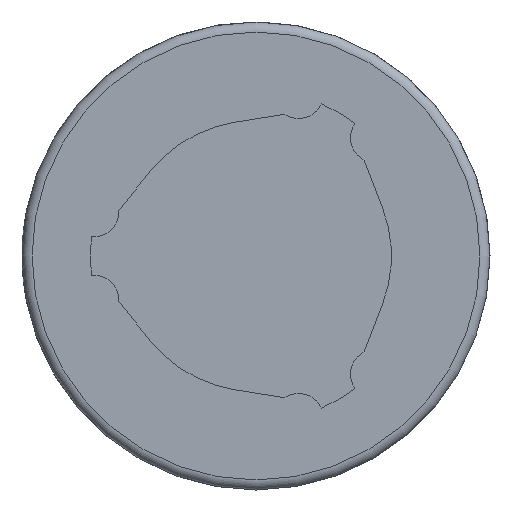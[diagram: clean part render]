
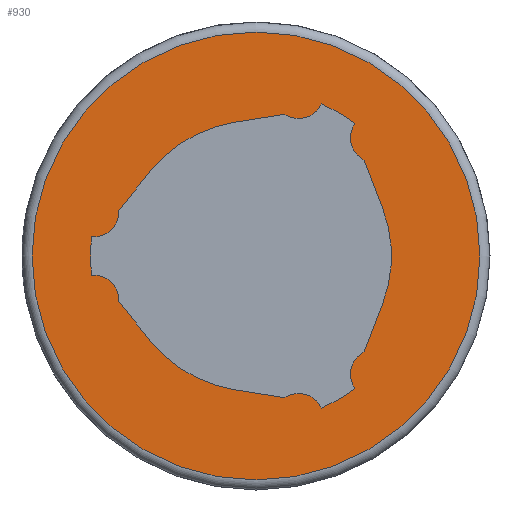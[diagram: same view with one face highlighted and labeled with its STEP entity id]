
A CAD part, left-side view. The second image highlights one B-rep face of the part: STEP entity #930.
In plain terms, the highlighted planar face has unit normal (-1, 0, 0).
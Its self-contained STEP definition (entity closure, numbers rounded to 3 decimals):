
#71=LINE('',#1439,#141);
#72=LINE('',#1448,#142);
#73=LINE('',#1452,#143);
#74=LINE('',#1460,#144);
#75=LINE('',#1464,#145);
#76=LINE('',#1472,#146);
#141=VECTOR('',#1135,1000.);
#142=VECTOR('',#1142,1000.);
#143=VECTOR('',#1145,1000.);
#144=VECTOR('',#1152,1000.);
#145=VECTOR('',#1155,1000.);
#146=VECTOR('',#1162,1000.);
#211=ORIENTED_EDGE('',*,*,#483,.F.);
#212=ORIENTED_EDGE('',*,*,#484,.T.);
#213=ORIENTED_EDGE('',*,*,#485,.F.);
#214=ORIENTED_EDGE('',*,*,#486,.T.);
#215=ORIENTED_EDGE('',*,*,#487,.F.);
#216=ORIENTED_EDGE('',*,*,#488,.T.);
#217=ORIENTED_EDGE('',*,*,#489,.T.);
#218=ORIENTED_EDGE('',*,*,#490,.T.);
#219=ORIENTED_EDGE('',*,*,#491,.F.);
#220=ORIENTED_EDGE('',*,*,#492,.T.);
#221=ORIENTED_EDGE('',*,*,#493,.F.);
#222=ORIENTED_EDGE('',*,*,#494,.T.);
#223=ORIENTED_EDGE('',*,*,#495,.T.);
#224=ORIENTED_EDGE('',*,*,#496,.T.);
#225=ORIENTED_EDGE('',*,*,#497,.F.);
#226=ORIENTED_EDGE('',*,*,#498,.T.);
#227=ORIENTED_EDGE('',*,*,#499,.F.);
#228=ORIENTED_EDGE('',*,*,#500,.T.);
#229=ORIENTED_EDGE('',*,*,#501,.T.);
#483=EDGE_CURVE('',#619,#619,#713,.T.);
#484=EDGE_CURVE('',#620,#621,#71,.T.);
#485=EDGE_CURVE('',#622,#621,#714,.T.);
#486=EDGE_CURVE('',#622,#623,#715,.T.);
#487=EDGE_CURVE('',#624,#623,#716,.T.);
#488=EDGE_CURVE('',#624,#625,#72,.T.);
#489=EDGE_CURVE('',#625,#626,#717,.T.);
#490=EDGE_CURVE('',#626,#627,#73,.T.);
#491=EDGE_CURVE('',#628,#627,#718,.T.);
#492=EDGE_CURVE('',#628,#629,#719,.T.);
#493=EDGE_CURVE('',#630,#629,#720,.T.);
#494=EDGE_CURVE('',#630,#631,#74,.T.);
#495=EDGE_CURVE('',#631,#632,#721,.T.);
#496=EDGE_CURVE('',#632,#633,#75,.T.);
#497=EDGE_CURVE('',#634,#633,#722,.T.);
#498=EDGE_CURVE('',#634,#635,#723,.T.);
#499=EDGE_CURVE('',#636,#635,#724,.T.);
#500=EDGE_CURVE('',#636,#637,#76,.T.);
#501=EDGE_CURVE('',#637,#620,#725,.T.);
#619=VERTEX_POINT('',#1438);
#620=VERTEX_POINT('',#1440);
#621=VERTEX_POINT('',#1441);
#622=VERTEX_POINT('',#1443);
#623=VERTEX_POINT('',#1445);
#624=VERTEX_POINT('',#1447);
#625=VERTEX_POINT('',#1449);
#626=VERTEX_POINT('',#1451);
#627=VERTEX_POINT('',#1453);
#628=VERTEX_POINT('',#1455);
#629=VERTEX_POINT('',#1457);
#630=VERTEX_POINT('',#1459);
#631=VERTEX_POINT('',#1461);
#632=VERTEX_POINT('',#1463);
#633=VERTEX_POINT('',#1465);
#634=VERTEX_POINT('',#1467);
#635=VERTEX_POINT('',#1469);
#636=VERTEX_POINT('',#1471);
#637=VERTEX_POINT('',#1473);
#713=CIRCLE('',#1013,67.);
#714=CIRCLE('',#1014,7.43);
#715=CIRCLE('',#1015,49.5);
#716=CIRCLE('',#1016,7.43);
#717=CIRCLE('',#1017,40.5);
#718=CIRCLE('',#1018,7.43);
#719=CIRCLE('',#1019,49.5);
#720=CIRCLE('',#1020,7.43);
#721=CIRCLE('',#1021,40.5);
#722=CIRCLE('',#1022,7.43);
#723=CIRCLE('',#1023,49.5);
#724=CIRCLE('',#1024,7.43);
#725=CIRCLE('',#1025,40.5);
#772=EDGE_LOOP('',(#211));
#773=EDGE_LOOP('',(#212,#213,#214,#215,#216,#217,#218,#219,#220,#221,#222,
#223,#224,#225,#226,#227,#228,#229));
#840=FACE_BOUND('',#772,.T.);
#841=FACE_BOUND('',#773,.T.);
#908=PLANE('',#1012);
#930=ADVANCED_FACE('',(#840,#841),#908,.F.);
#1012=AXIS2_PLACEMENT_3D('',#1436,#1131,#1132);
#1013=AXIS2_PLACEMENT_3D('',#1437,#1133,#1134);
#1014=AXIS2_PLACEMENT_3D('',#1442,#1136,#1137);
#1015=AXIS2_PLACEMENT_3D('',#1444,#1138,#1139);
#1016=AXIS2_PLACEMENT_3D('',#1446,#1140,#1141);
#1017=AXIS2_PLACEMENT_3D('',#1450,#1143,#1144);
#1018=AXIS2_PLACEMENT_3D('',#1454,#1146,#1147);
#1019=AXIS2_PLACEMENT_3D('',#1456,#1148,#1149);
#1020=AXIS2_PLACEMENT_3D('',#1458,#1150,#1151);
#1021=AXIS2_PLACEMENT_3D('',#1462,#1153,#1154);
#1022=AXIS2_PLACEMENT_3D('',#1466,#1156,#1157);
#1023=AXIS2_PLACEMENT_3D('',#1468,#1158,#1159);
#1024=AXIS2_PLACEMENT_3D('',#1470,#1160,#1161);
#1025=AXIS2_PLACEMENT_3D('',#1474,#1163,#1164);
#1131=DIRECTION('',(1.,0.,0.));
#1132=DIRECTION('',(0.,0.,-1.));
#1133=DIRECTION('',(1.,0.,0.));
#1134=DIRECTION('',(0.,0.,-1.));
#1135=DIRECTION('',(0.,-0.988,0.156));
#1136=DIRECTION('',(1.,0.,0.));
#1137=DIRECTION('',(0.,0.,-1.));
#1138=DIRECTION('',(1.,0.,0.));
#1139=DIRECTION('',(0.,0.,-1.));
#1140=DIRECTION('',(1.,0.,0.));
#1141=DIRECTION('',(0.,0.,-1.));
#1142=DIRECTION('',(0.,-0.358,-0.934));
#1143=DIRECTION('',(1.,0.,0.));
#1144=DIRECTION('',(0.,0.,-1.));
#1145=DIRECTION('',(0.,0.358,-0.934));
#1146=DIRECTION('',(1.,0.,0.));
#1147=DIRECTION('',(0.,0.,-1.));
#1148=DIRECTION('',(1.,0.,0.));
#1149=DIRECTION('',(0.,0.,-1.));
#1150=DIRECTION('',(1.,0.,0.));
#1151=DIRECTION('',(0.,0.,-1.));
#1152=DIRECTION('',(0.,0.988,0.156));
#1153=DIRECTION('',(1.,0.,0.));
#1154=DIRECTION('',(0.,0.,-1.));
#1155=DIRECTION('',(0.,0.629,0.777));
#1156=DIRECTION('',(1.,0.,0.));
#1157=DIRECTION('',(0.,0.,-1.));
#1158=DIRECTION('',(1.,0.,0.));
#1159=DIRECTION('',(0.,0.,-1.));
#1160=DIRECTION('',(1.,0.,0.));
#1161=DIRECTION('',(0.,0.,-1.));
#1162=DIRECTION('',(0.,-0.629,0.777));
#1163=DIRECTION('',(1.,0.,0.));
#1164=DIRECTION('',(0.,0.,-1.));
#1436=CARTESIAN_POINT('',(0.,0.,0.));
#1437=CARTESIAN_POINT('',(0.,0.,0.));
#1438=CARTESIAN_POINT('',(0.,0.,-67.));
#1439=CARTESIAN_POINT('',(0.,6.336,40.001));
#1440=CARTESIAN_POINT('',(0.,6.336,40.001));
#1441=CARTESIAN_POINT('',(0.,-8.663,42.377));
#1442=CARTESIAN_POINT('',(0.,-12.791,48.555));
#1443=CARTESIAN_POINT('',(0.,-19.553,45.475));
#1444=CARTESIAN_POINT('',(0.,0.,0.));
#1445=CARTESIAN_POINT('',(0.,-29.606,39.671));
#1446=CARTESIAN_POINT('',(0.,-35.654,35.355));
#1447=CARTESIAN_POINT('',(0.,-32.368,28.691));
#1448=CARTESIAN_POINT('',(0.,-32.368,28.691));
#1449=CARTESIAN_POINT('',(0.,-37.81,14.514));
#1450=CARTESIAN_POINT('',(0.,0.,0.));
#1451=CARTESIAN_POINT('',(0.,-37.81,-14.514));
#1452=CARTESIAN_POINT('',(0.,-37.81,-14.514));
#1453=CARTESIAN_POINT('',(0.,-32.368,-28.691));
#1454=CARTESIAN_POINT('',(0.,-35.654,-35.355));
#1455=CARTESIAN_POINT('',(0.,-29.606,-39.671));
#1456=CARTESIAN_POINT('',(0.,0.,0.));
#1457=CARTESIAN_POINT('',(0.,-19.553,-45.475));
#1458=CARTESIAN_POINT('',(0.,-12.791,-48.555));
#1459=CARTESIAN_POINT('',(0.,-8.663,-42.377));
#1460=CARTESIAN_POINT('',(0.,-8.663,-42.377));
#1461=CARTESIAN_POINT('',(0.,6.336,-40.001));
#1462=CARTESIAN_POINT('',(0.,0.,0.));
#1463=CARTESIAN_POINT('',(0.,31.474,-25.487));
#1464=CARTESIAN_POINT('',(0.,31.474,-25.487));
#1465=CARTESIAN_POINT('',(0.,41.031,-13.686));
#1466=CARTESIAN_POINT('',(0.,48.445,-13.2));
#1467=CARTESIAN_POINT('',(0.,49.159,-5.804));
#1468=CARTESIAN_POINT('',(0.,0.,0.));
#1469=CARTESIAN_POINT('',(0.,49.159,5.804));
#1470=CARTESIAN_POINT('',(0.,48.445,13.2));
#1471=CARTESIAN_POINT('',(0.,41.031,13.686));
#1472=CARTESIAN_POINT('',(0.,41.031,13.686));
#1473=CARTESIAN_POINT('',(0.,31.474,25.487));
#1474=CARTESIAN_POINT('',(0.,0.,0.));
